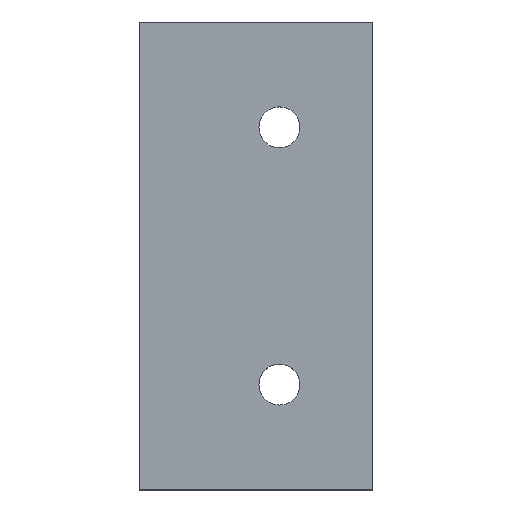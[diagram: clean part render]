
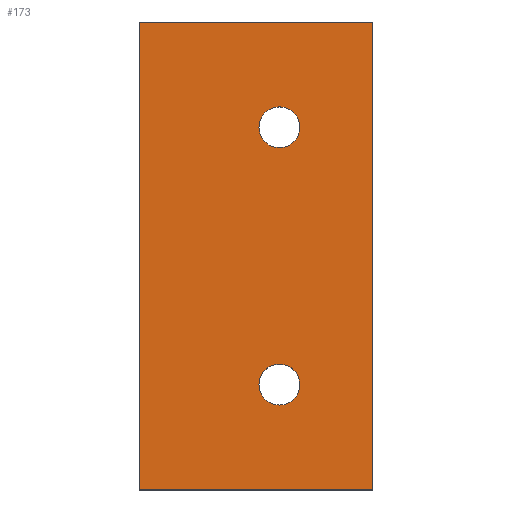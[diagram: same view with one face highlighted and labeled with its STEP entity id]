
A CAD part, top view. The second image highlights one B-rep face of the part: STEP entity #173.
In plain terms, the highlighted planar face has unit normal (0, 0, 1).
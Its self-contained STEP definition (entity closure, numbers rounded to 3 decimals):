
#4 = LINE ( 'NONE', #88, #16 ) ;
#5 = CARTESIAN_POINT ( 'NONE',  ( 60., 155., 25. ) ) ;
#16 = VECTOR ( 'NONE', #150, 1000. ) ;
#20 = ORIENTED_EDGE ( 'NONE', *, *, #322, .T. ) ;
#25 = AXIS2_PLACEMENT_3D ( 'NONE', #84, #294, #135 ) ;
#29 = EDGE_CURVE ( 'NONE', #89, #225, #55, .T. ) ;
#30 = PLANE ( 'NONE',  #25 ) ;
#33 = ORIENTED_EDGE ( 'NONE', *, *, #169, .F. ) ;
#35 = DIRECTION ( 'NONE',  ( 1., 0., 0. ) ) ;
#37 = ORIENTED_EDGE ( 'NONE', *, *, #279, .T. ) ;
#38 = ORIENTED_EDGE ( 'NONE', *, *, #82, .F. ) ;
#39 = CARTESIAN_POINT ( 'NONE',  ( 68.75, 45., 25. ) ) ;
#43 = FACE_OUTER_BOUND ( 'NONE', #248, .T. ) ;
#46 = VERTEX_POINT ( 'NONE', #39 ) ;
#53 = DIRECTION ( 'NONE',  ( -1., 0., 0. ) ) ;
#54 = CARTESIAN_POINT ( 'NONE',  ( 0., 0., 25. ) ) ;
#55 = CIRCLE ( 'NONE', #119, 8.75 ) ;
#61 = CARTESIAN_POINT ( 'NONE',  ( 100., 100., 25. ) ) ;
#65 = CARTESIAN_POINT ( 'NONE',  ( 51.25, 155., 25. ) ) ;
#82 = EDGE_CURVE ( 'NONE', #225, #89, #276, .T. ) ;
#84 = CARTESIAN_POINT ( 'NONE',  ( 0., 0., 25. ) ) ;
#88 = CARTESIAN_POINT ( 'NONE',  ( 0., 100., 25. ) ) ;
#89 = VERTEX_POINT ( 'NONE', #65 ) ;
#94 = VERTEX_POINT ( 'NONE', #245 ) ;
#96 = EDGE_CURVE ( 'NONE', #94, #280, #4, .T. ) ;
#97 = ORIENTED_EDGE ( 'NONE', *, *, #155, .T. ) ;
#98 = LINE ( 'NONE', #61, #172 ) ;
#100 = CARTESIAN_POINT ( 'NONE',  ( 51.25, 45., 25. ) ) ;
#101 = CARTESIAN_POINT ( 'NONE',  ( 68.75, 155., 25. ) ) ;
#109 = FACE_BOUND ( 'NONE', #193, .T. ) ;
#116 = EDGE_CURVE ( 'NONE', #271, #46, #285, .T. ) ;
#119 = AXIS2_PLACEMENT_3D ( 'NONE', #165, #331, #299 ) ;
#131 = DIRECTION ( 'NONE',  ( 0., 0., 1. ) ) ;
#134 = LINE ( 'NONE', #344, #141 ) ;
#135 = DIRECTION ( 'NONE',  ( 1., 0., 0. ) ) ;
#136 = CARTESIAN_POINT ( 'NONE',  ( 60., 45., 25. ) ) ;
#137 = DIRECTION ( 'NONE',  ( 1., 0., 0. ) ) ;
#141 = VECTOR ( 'NONE', #53, 1000. ) ;
#145 = LINE ( 'NONE', #241, #236 ) ;
#150 = DIRECTION ( 'NONE',  ( 0., -1., 0. ) ) ;
#155 = EDGE_CURVE ( 'NONE', #196, #348, #98, .T. ) ;
#163 = DIRECTION ( 'NONE',  ( 0., 0., 1. ) ) ;
#165 = CARTESIAN_POINT ( 'NONE',  ( 60., 155., 25. ) ) ;
#169 = EDGE_CURVE ( 'NONE', #46, #271, #244, .T. ) ;
#172 = VECTOR ( 'NONE', #219, 1000. ) ;
#173 = ADVANCED_FACE ( 'NONE', ( #43, #109, #312 ), #30, .T. ) ;
#177 = ORIENTED_EDGE ( 'NONE', *, *, #96, .T. ) ;
#193 = EDGE_LOOP ( 'NONE', ( #255, #38 ) ) ;
#196 = VERTEX_POINT ( 'NONE', #286 ) ;
#211 = AXIS2_PLACEMENT_3D ( 'NONE', #5, #163, #137 ) ;
#219 = DIRECTION ( 'NONE',  ( 0., 1., 0. ) ) ;
#220 = DIRECTION ( 'NONE',  ( 1., 0., 0. ) ) ;
#225 = VERTEX_POINT ( 'NONE', #101 ) ;
#235 = ORIENTED_EDGE ( 'NONE', *, *, #116, .F. ) ;
#236 = VECTOR ( 'NONE', #35, 1000. ) ;
#241 = CARTESIAN_POINT ( 'NONE',  ( 50., 0., 25. ) ) ;
#244 = CIRCLE ( 'NONE', #317, 8.75 ) ;
#245 = CARTESIAN_POINT ( 'NONE',  ( 0., 200., 25. ) ) ;
#246 = AXIS2_PLACEMENT_3D ( 'NONE', #136, #266, #220 ) ;
#248 = EDGE_LOOP ( 'NONE', ( #20, #97, #37, #177 ) ) ;
#255 = ORIENTED_EDGE ( 'NONE', *, *, #29, .F. ) ;
#264 = EDGE_LOOP ( 'NONE', ( #235, #33 ) ) ;
#266 = DIRECTION ( 'NONE',  ( 0., 0., 1. ) ) ;
#271 = VERTEX_POINT ( 'NONE', #100 ) ;
#276 = CIRCLE ( 'NONE', #211, 8.75 ) ;
#279 = EDGE_CURVE ( 'NONE', #348, #94, #134, .T. ) ;
#280 = VERTEX_POINT ( 'NONE', #54 ) ;
#285 = CIRCLE ( 'NONE', #246, 8.75 ) ;
#286 = CARTESIAN_POINT ( 'NONE',  ( 100., 0., 25. ) ) ;
#290 = DIRECTION ( 'NONE',  ( 1., 0., 0. ) ) ;
#294 = DIRECTION ( 'NONE',  ( 0., 0., 1. ) ) ;
#299 = DIRECTION ( 'NONE',  ( 1., 0., 0. ) ) ;
#312 = FACE_BOUND ( 'NONE', #264, .T. ) ;
#317 = AXIS2_PLACEMENT_3D ( 'NONE', #323, #131, #290 ) ;
#322 = EDGE_CURVE ( 'NONE', #280, #196, #145, .T. ) ;
#323 = CARTESIAN_POINT ( 'NONE',  ( 60., 45., 25. ) ) ;
#327 = CARTESIAN_POINT ( 'NONE',  ( 100., 200., 25. ) ) ;
#331 = DIRECTION ( 'NONE',  ( 0., 0., 1. ) ) ;
#344 = CARTESIAN_POINT ( 'NONE',  ( 50., 200., 25. ) ) ;
#348 = VERTEX_POINT ( 'NONE', #327 ) ;
